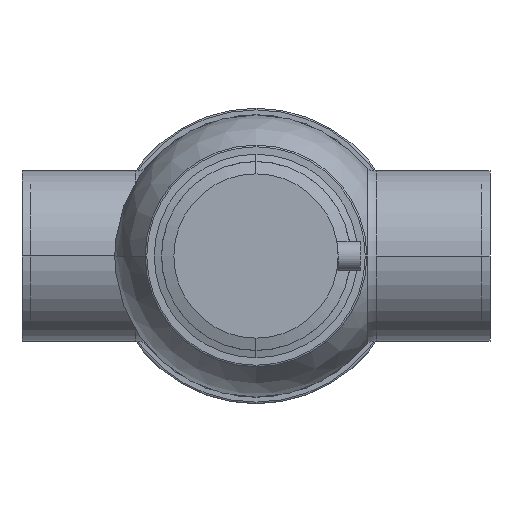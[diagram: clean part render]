
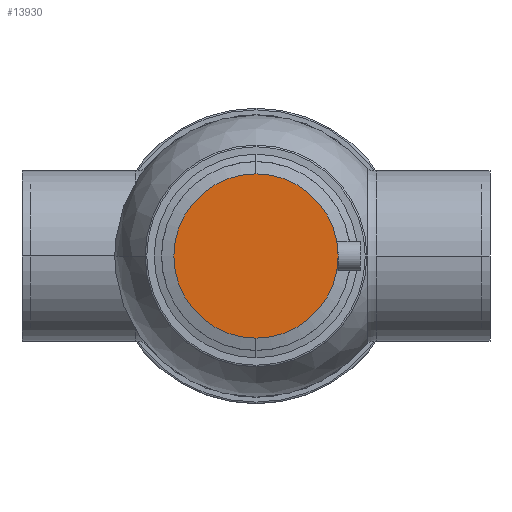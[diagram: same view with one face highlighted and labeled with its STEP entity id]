
A CAD part, front view. The second image highlights one B-rep face of the part: STEP entity #13930.
In plain terms, the highlighted planar face has unit normal (0, -1, 0) as drawn and (0, 0, -1) by its records, which use the part's own axes.
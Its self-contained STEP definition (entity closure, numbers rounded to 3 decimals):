
#11030=CARTESIAN_POINT('',(-50.,34.1,-20.));
#11040=VERTEX_POINT('',#11030);
#11090=CARTESIAN_POINT('',(0.,34.1,-20.));
#11100=DIRECTION('',(0.,0.,1.));
#11110=DIRECTION('',(1.,0.,0.));
#11120=AXIS2_PLACEMENT_3D('',#11090,#11100,#11110);
#11130=CIRCLE('',#11120,50.);
#11140=CARTESIAN_POINT('',(50.,34.1,-20.));
#11150=VERTEX_POINT('',#11140);
#11160=EDGE_CURVE('',#11150,#11040,#11130,.T.);
#13830=CARTESIAN_POINT('',(-48.25,34.1,-20.));
#13840=DIRECTION('',(0.,0.,-1.));
#13850=DIRECTION('',(-1.,0.,0.));
#13860=AXIS2_PLACEMENT_3D('',#13830,#13840,#13850);
#13870=PLANE('',#13860);
#13880=ORIENTED_EDGE('',*,*,#11160,.F.);
#13890=EDGE_CURVE('',#11040,#11150,#11130,.T.);
#13900=ORIENTED_EDGE('',*,*,#13890,.F.);
#13910=EDGE_LOOP('',(#13900,#13880));
#13920=FACE_OUTER_BOUND('',#13910,.T.);
#13930=ADVANCED_FACE('',(#13920),#13870,.T.);
